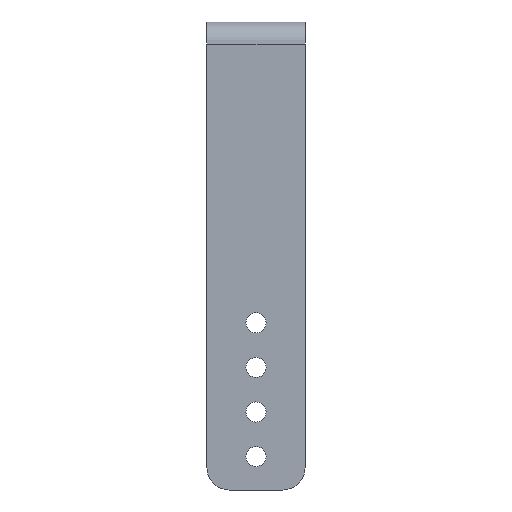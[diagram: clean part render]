
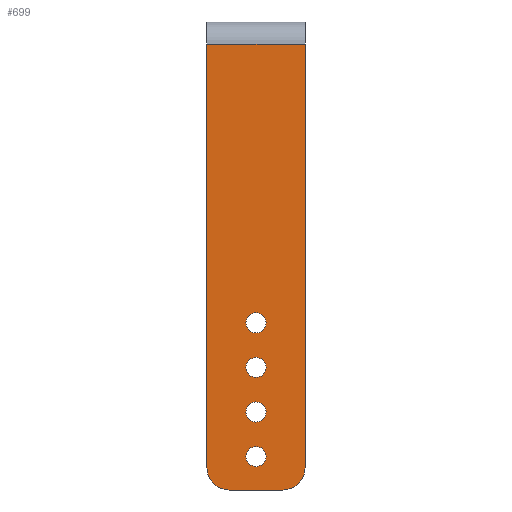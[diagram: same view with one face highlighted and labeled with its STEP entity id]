
A CAD part, left-side view. The second image highlights one B-rep face of the part: STEP entity #699.
In plain terms, the highlighted planar face has unit normal (-1, 0, 0).
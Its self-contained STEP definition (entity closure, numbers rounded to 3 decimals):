
#26=FACE_BOUND('',#135,.T.);
#27=FACE_BOUND('',#136,.T.);
#28=FACE_BOUND('',#137,.T.);
#29=FACE_BOUND('',#138,.T.);
#49=PLANE('',#797);
#85=FACE_OUTER_BOUND('',#134,.T.);
#134=EDGE_LOOP('',(#575,#576,#577,#578,#579,#580));
#135=EDGE_LOOP('',(#581));
#136=EDGE_LOOP('',(#582));
#137=EDGE_LOOP('',(#583));
#138=EDGE_LOOP('',(#584));
#165=LINE('',#1087,#216);
#171=LINE('',#1104,#222);
#191=LINE('',#1160,#242);
#195=LINE('',#1175,#246);
#216=VECTOR('',#894,10.);
#222=VECTOR('',#910,10.);
#242=VECTOR('',#970,10.);
#246=VECTOR('',#988,10.);
#260=CIRCLE('',#741,4.5);
#264=CIRCLE('',#747,4.5);
#268=CIRCLE('',#753,4.5);
#272=CIRCLE('',#759,4.5);
#274=CIRCLE('',#762,10.);
#277=CIRCLE('',#768,10.);
#298=VERTEX_POINT('',#1032);
#302=VERTEX_POINT('',#1044);
#306=VERTEX_POINT('',#1056);
#310=VERTEX_POINT('',#1068);
#312=VERTEX_POINT('',#1074);
#313=VERTEX_POINT('',#1075);
#317=VERTEX_POINT('',#1085);
#321=VERTEX_POINT('',#1097);
#322=VERTEX_POINT('',#1098);
#323=VERTEX_POINT('',#1103);
#356=EDGE_CURVE('',#298,#298,#260,.T.);
#362=EDGE_CURVE('',#302,#302,#264,.T.);
#368=EDGE_CURVE('',#306,#306,#268,.T.);
#374=EDGE_CURVE('',#310,#310,#272,.T.);
#377=EDGE_CURVE('',#312,#313,#274,.T.);
#383=EDGE_CURVE('',#317,#312,#165,.T.);
#388=EDGE_CURVE('',#321,#322,#277,.T.);
#391=EDGE_CURVE('',#322,#323,#171,.T.);
#419=EDGE_CURVE('',#317,#323,#191,.T.);
#427=EDGE_CURVE('',#313,#321,#195,.T.);
#575=ORIENTED_EDGE('',*,*,#377,.F.);
#576=ORIENTED_EDGE('',*,*,#383,.F.);
#577=ORIENTED_EDGE('',*,*,#419,.T.);
#578=ORIENTED_EDGE('',*,*,#391,.F.);
#579=ORIENTED_EDGE('',*,*,#388,.F.);
#580=ORIENTED_EDGE('',*,*,#427,.F.);
#581=ORIENTED_EDGE('',*,*,#356,.T.);
#582=ORIENTED_EDGE('',*,*,#362,.T.);
#583=ORIENTED_EDGE('',*,*,#368,.T.);
#584=ORIENTED_EDGE('',*,*,#374,.T.);
#699=ADVANCED_FACE('',(#85,#26,#27,#28,#29),#49,.T.);
#741=AXIS2_PLACEMENT_3D('',#1033,#835,#836);
#747=AXIS2_PLACEMENT_3D('',#1045,#849,#850);
#753=AXIS2_PLACEMENT_3D('',#1057,#863,#864);
#759=AXIS2_PLACEMENT_3D('',#1069,#877,#878);
#762=AXIS2_PLACEMENT_3D('',#1076,#884,#885);
#768=AXIS2_PLACEMENT_3D('',#1099,#904,#905);
#797=AXIS2_PLACEMENT_3D('',#1176,#989,#990);
#835=DIRECTION('center_axis',(1.,0.,0.));
#836=DIRECTION('ref_axis',(0.,0.,1.));
#849=DIRECTION('center_axis',(1.,0.,0.));
#850=DIRECTION('ref_axis',(0.,0.,1.));
#863=DIRECTION('center_axis',(1.,0.,0.));
#864=DIRECTION('ref_axis',(0.,0.,1.));
#877=DIRECTION('center_axis',(1.,0.,0.));
#878=DIRECTION('ref_axis',(0.,0.,1.));
#884=DIRECTION('center_axis',(1.,0.,0.));
#885=DIRECTION('ref_axis',(0.,-0.707,-0.707));
#894=DIRECTION('',(0.,0.,-1.));
#904=DIRECTION('center_axis',(1.,0.,0.));
#905=DIRECTION('ref_axis',(0.,0.707,-0.707));
#910=DIRECTION('',(0.,0.,1.));
#970=DIRECTION('',(0.,1.,0.));
#988=DIRECTION('',(0.,1.,0.));
#989=DIRECTION('center_axis',(-1.,0.,0.));
#990=DIRECTION('ref_axis',(0.,0.,1.));
#1032=CARTESIAN_POINT('',(-207.,0.,-174.5));
#1033=CARTESIAN_POINT('Origin',(-207.,0.,-170.));
#1044=CARTESIAN_POINT('',(-207.,0.,-134.5));
#1045=CARTESIAN_POINT('Origin',(-207.,0.,-130.));
#1056=CARTESIAN_POINT('',(-207.,0.,-194.5));
#1057=CARTESIAN_POINT('Origin',(-207.,0.,-190.));
#1068=CARTESIAN_POINT('',(-207.,0.,-154.5));
#1069=CARTESIAN_POINT('Origin',(-207.,0.,-150.));
#1074=CARTESIAN_POINT('',(-207.,-22.,-195.));
#1075=CARTESIAN_POINT('',(-207.,-12.,-205.));
#1076=CARTESIAN_POINT('Origin',(-207.,-12.,-195.));
#1085=CARTESIAN_POINT('',(-207.,-22.,-5.));
#1087=CARTESIAN_POINT('',(-207.,-22.,-5.));
#1097=CARTESIAN_POINT('',(-207.,12.,-205.));
#1098=CARTESIAN_POINT('',(-207.,22.,-195.));
#1099=CARTESIAN_POINT('Origin',(-207.,12.,-195.));
#1103=CARTESIAN_POINT('',(-207.,22.,-5.));
#1104=CARTESIAN_POINT('',(-207.,22.,6.31));
#1160=CARTESIAN_POINT('',(-207.,0.,-5.));
#1175=CARTESIAN_POINT('',(-207.,-22.,-205.));
#1176=CARTESIAN_POINT('Origin',(-207.,0.,-99.345));
